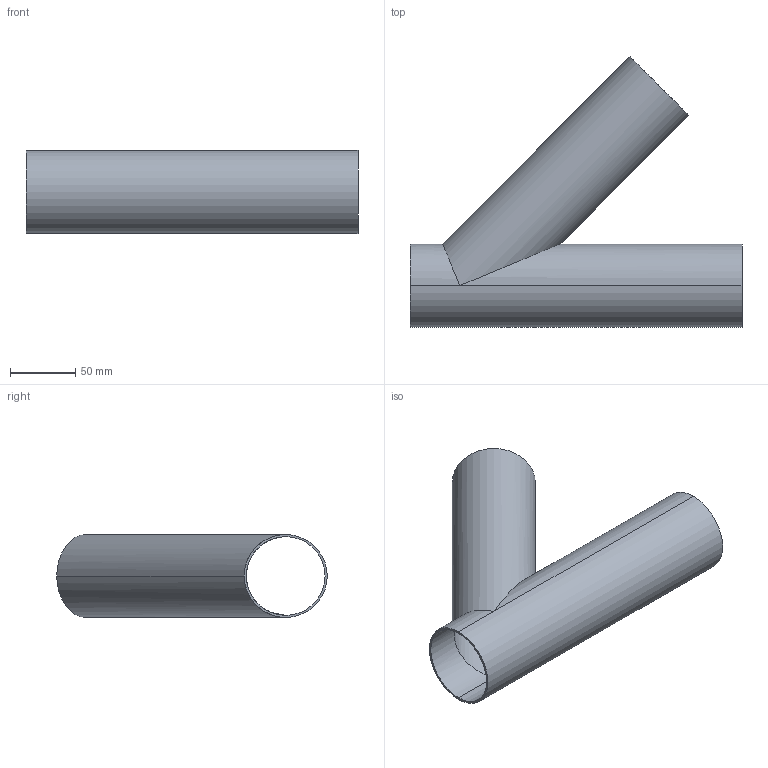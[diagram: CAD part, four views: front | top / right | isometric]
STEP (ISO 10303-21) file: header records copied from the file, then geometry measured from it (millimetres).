
FILE_DESCRIPTION (( 'STEP AP214' ), '1' );
FILE_NAME ('TE28WA6L2.5-...STEP', '2016-05-24T12:44:05', ( 'eran' ), ( '' ), 'SwSTEP 2.0', 'SolidWorks 2016', '' );
FILE_SCHEMA (( 'AUTOMOTIVE_DESIGN' ));
Length unit declared in the file: millimetre
Products named in the file (1): TE28WA6L2.5-..
Bounding box: 254 x 206.87 x 63.5 mm (x, y, z)
Volume: 132796.3 mm3; surface area: 161916.8 mm2
Topology: 1 solids, 1 shells, 13 faces, 32 edges, 20 vertices
Faces by surface type: cylinder 10, plane 3
Entity records: 428 total; most frequent: CARTESIAN_POINT 90, DIRECTION 64, ORIENTED_EDGE 64, EDGE_CURVE 32, AXIS2_PLACEMENT_3D 26, VERTEX_POINT 20, EDGE_LOOP 16, ADVANCED_FACE 13
